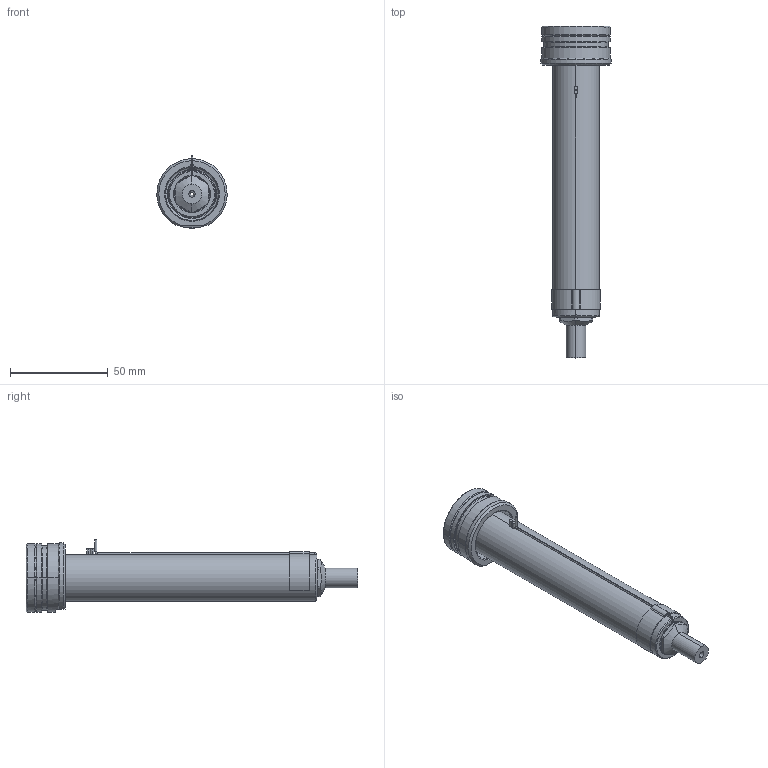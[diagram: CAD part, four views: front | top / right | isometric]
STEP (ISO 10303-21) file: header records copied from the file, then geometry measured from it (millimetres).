
FILE_DESCRIPTION((''),'2;1');
FILE_NAME('EO06_VG-FBE_WR_140_SW','2024-02-19T13:52:40',('sundharh'),(''),'CREO PARAMETRIC BY PTC INC, 2023154','CREO PARAMETRIC BY PTC INC, 2023154','');
FILE_SCHEMA(('CONFIG_CONTROL_DESIGN'));
Length unit declared in the file: millimetre
Products named in the file (1): EO06_VG-FBE_WR_140_SW
Bounding box: 35.93 x 170 x 37 mm (x, y, z)
Volume: 73629.3 mm3; surface area: 21160.1 mm2
Topology: 2 solids, 2 shells, 204 faces, 506 edges, 302 vertices
Faces by surface type: cylinder 76, plane 41, cone 40, torus 29, bspline 16, sphere 2
Entity records: 7013 total; most frequent: CARTESIAN_POINT 2117, DIRECTION 1094, ORIENTED_EDGE 996, EDGE_CURVE 498, AXIS2_PLACEMENT_3D 462, VERTEX_POINT 302, CIRCLE 274, EDGE_LOOP 218
